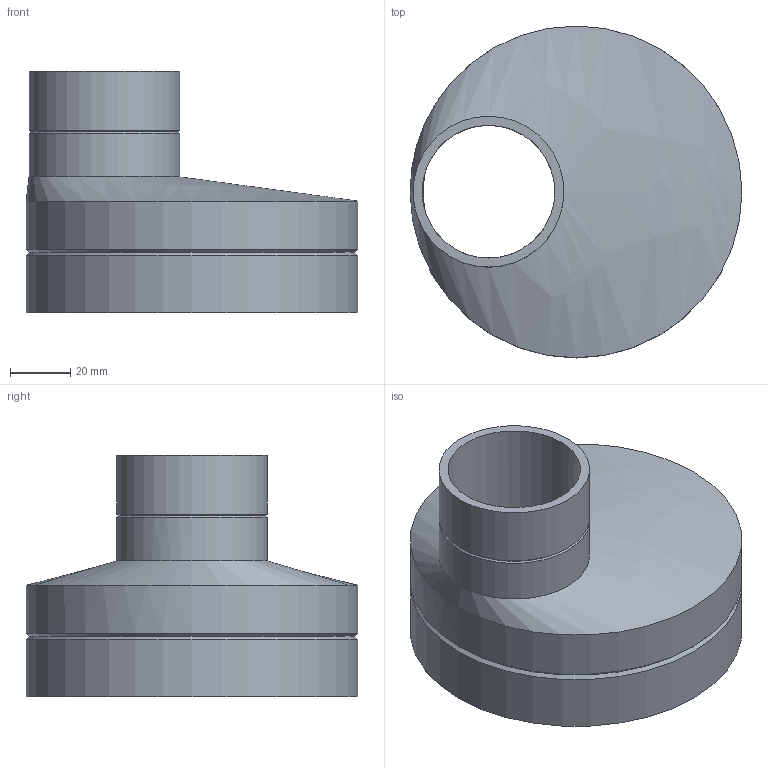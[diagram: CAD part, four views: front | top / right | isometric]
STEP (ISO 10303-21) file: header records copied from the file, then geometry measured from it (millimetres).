
FILE_DESCRIPTION(/* description */ (''),/* implementation_level */ '2;1');
FILE_NAME(/* name */ 'Z:\Geberit\Export\NewStep\367561.stp',/* time_stamp */ '2014-04-02T07:57:34+02:00',/* author */ ('nelson'),/* organization */ (''),/* preprocessor_version */ 'ST-DEVELOPER v15.2',/* originating_system */ 'Autodesk Inventor 2014',/* authorisation */ '');
FILE_SCHEMA (('AUTOMOTIVE_DESIGN { 1 0 10303 214 3 1 1 }'));
Length unit declared in the file: millimetre
Products named in the file (1): 367561
Bounding box: 110 x 110 x 80 mm (x, y, z)
Volume: 75043.3 mm3; surface area: 52306.4 mm2
Topology: 1 solids, 1 shells, 14 faces, 38 edges, 26 vertices
Faces by surface type: cylinder 6, cone 4, bspline 2, plane 2
Full cylindrical faces by diameter (mm): 44 x1, 50 x2, 101.4 x1, 110 x2
Entity records: 417 total; most frequent: CARTESIAN_POINT 93, DIRECTION 66, ORIENTED_EDGE 44, AXIS2_PLACEMENT_3D 33, EDGE_LOOP 26, EDGE_CURVE 22, CIRCLE 20, VERTEX_POINT 20
